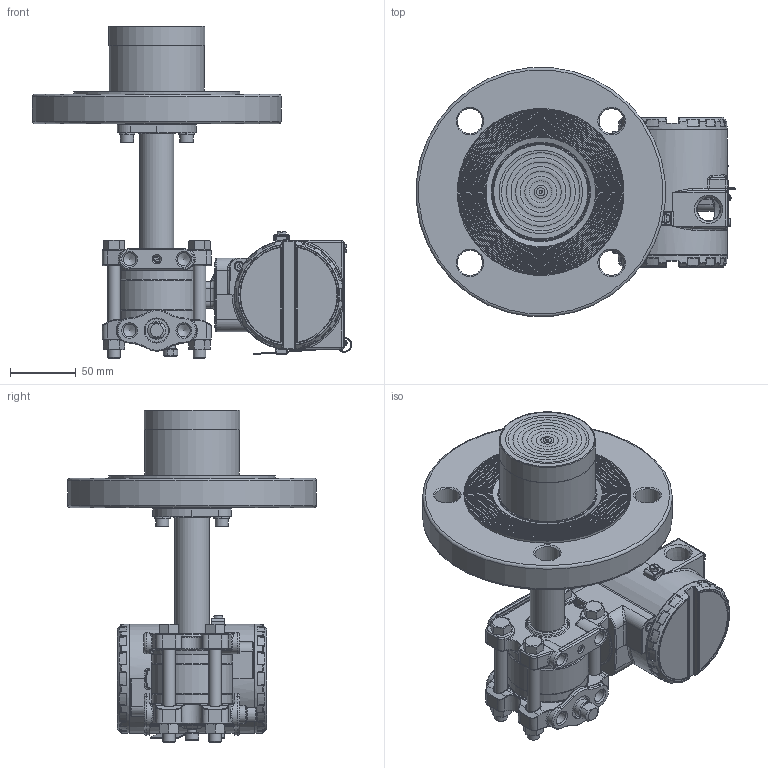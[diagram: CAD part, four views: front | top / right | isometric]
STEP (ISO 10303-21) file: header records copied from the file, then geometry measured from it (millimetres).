
FILE_DESCRIPTION(/* description */ (''),/* implementation_level */ '2;1');
FILE_NAME(/* name */ 'F:\Area\Desenvolvimento_2\Projects\Sensor\projetos\LD30X\montagens 3d - clientes\SELO NIVEL\LD30XL 3-150 RF ext 50 ref 1-4NPT purga acima.stp',/* time_stamp */ '2023-02-10T16:27:22-03:00',/* author */ ('inventor02'),/* organization */ (''),/* preprocessor_version */ 'ST-DEVELOPER v17',/* originating_system */ 'Autodesk Inventor 2019',/* authorisation */ '');
FILE_SCHEMA (('CONFIG_CONTROL_DESIGN'));
Products named in the file (41): LD30XL 3-150 RF ext 50 ref 1-4NPT purga acima; 204-0301-L-3 150 RF ext 50 purga acima; nivel fx3 com baixa diferencial 1-4NPT purga acima; involucro fx0-3 apos a usinagem final; flange diferencial std purga; 101-C-7484-01 flange selo nivel VR; 201-A-0504-tubo união teste 1; bujao 1-4NPT; Sangria; Porca 3-8 x 16 UNC; Paraf. 3-8 x 16 UNC; adaptação tubo x flanges 1-1-2 a 4pol; 101-B-0161-anel cortado do tubo - teste1; 101-B-0162-flange fixação tubo; ANSI B18.3.1M - M6x1 x 16; DIN 127 - A 6; flange 3 150 ext 50; 101-C-0111-14; 096-B-0199-14; 101-B-7701-02 ext 3-50; carcaça vazia com tampas e plaqueta; carcaça LD inox sem letras; Subconjunto plaqueta 300; Plaqueta transmissor; Parafuso da Plaqueta; Rebite da Plaqueta; 096-A-0169-03; 101-A-0502-01; Chapa aterramento externo; ISO 1207 - M4 x 8; DIN 915 - M6 x 10; ANSI B18.3.1M - M4x0,7 x 8; Subconjunto tampa com visor aluminio; tampa pintada; VIDRO DO VISOR; oring 41x1 vidro tampa; Trava do vidro da tampa com visor; trava do vidro VH256; Subconjunto tampa sem visor-aluminio; tampa cega 300 pintada p0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
Assembly tree (51 placements, depth 4):
  LD30XL 3-150 RF ext 50 ref 1-4NPT purga acima
    204-0301-L-3 150 RF ext 50 purga acima
      nivel fx3 com baixa diferencial 1-4NPT purga acima
        involucro fx0-3 apos a usinagem final
        flange diferencial std purga
        101-C-7484-01 flange selo nivel VR
        201-A-0504-tubo união teste 1
        DIN 915 - M6 x 10
        bujao 1-4NPT
        Sangria
        Porca 3-8 x 16 UNC  x4
        Paraf. 3-8 x 16 UNC  x4
      adaptação tubo x flanges 1-1-2 a 4pol
        101-B-0161-anel cortado do tubo - teste1
        101-B-0162-flange fixação tubo
        ANSI B18.3.1M - M6x1 x 16  x2
        DIN 127 - A 6  x2
      flange 3 150 ext 50
        101-C-0111-14
        096-B-0199-14
        101-B-7701-02 ext 3-50
    carcaça vazia com tampas e plaqueta
      carcaça LD inox sem letras
      Subconjunto plaqueta 300
        Plaqueta transmissor
        Parafuso da Plaqueta
        Rebite da Plaqueta
        096-A-0169-03
        101-A-0502-01
      Chapa aterramento externo
      ISO 1207 - M4 x 8
      DIN 915 - M6 x 10
      ANSI B18.3.1M - M4x0,7 x 8  x2
      Subconjunto tampa com visor aluminio
        tampa pintada
        VIDRO DO VISOR
        oring 41x1 vidro tampa
        Trava do vidro da tampa com visor
        trava do vidro VH256
        00034775-0
      Subconjunto tampa sem visor-aluminio
        tampa cega 300 pintada p0
        00034775-0
Bounding box: 242.92 x 189.28 x 252.6 mm (x, y, z)
Volume: 1309774 mm3; surface area: 359317.6 mm2
Topology: 43 solids, 43 shells, 2761 faces, 6596 edges, 3909 vertices
Faces by surface type: bspline 667, cylinder 656, plane 578, torus 486, cone 248, sphere 126
Full cylindrical faces by diameter (mm): 2 x4, 2.1 x2, 2.459 x5, 2.5 x1, 2.642 x1, 2.7 x1, 2.8 x1, 3 x4, 3.242 x4, 3.5 x5, 3.571 x1, 4 x5, 4.3 x1, 4.4 x1, 4.917 x4, 5 x1, 5.5 x3, 6 x6, 6.647 x1, 7 x7, 7.087 x2, 7.6 x2, 7.798 x4, 8 x1, 8.7 x2, 9.525 x4, 9.728 x6, 10 x2, 10.5 x8, 10.719 x2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
Entity records: 95173 total; most frequent: CARTESIAN_POINT 34741, DIRECTION 12491, ORIENTED_EDGE 12372, EDGE_CURVE 6186, AXIS2_PLACEMENT_3D 5524, VERTEX_POINT 3715, CIRCLE 3274, EDGE_LOOP 2819
